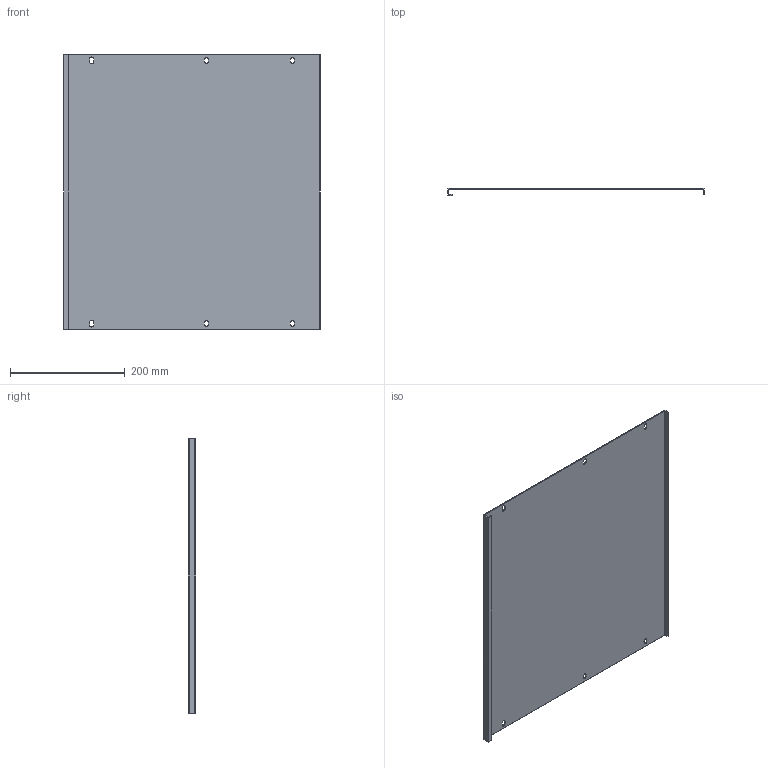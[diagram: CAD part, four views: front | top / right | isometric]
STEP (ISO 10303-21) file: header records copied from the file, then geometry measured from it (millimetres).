
FILE_DESCRIPTION (( 'STEP AP214' ), '1' );
FILE_NAME ('FO-00-PVS-045-060 Ïëàñòðîí ãëóõîé âíóòðåííèé 450õ600.STEP', '2025-08-26T08:52:43', ( '' ), ( '' ), 'SwSTEP 2.0', 'SolidWorks 2023', '' );
FILE_SCHEMA (( 'AUTOMOTIVE_DESIGN' ));
Length unit declared in the file: millimetre
Products named in the file (1): FO-00-PVS-045-060 Пластрон глухой внутренний 450х600
Bounding box: 448 x 12.5 x 479 mm (x, y, z)
Volume: 339991.6 mm3; surface area: 456445.1 mm2
Topology: 1 solids, 1 shells, 52 faces, 150 edges, 100 vertices
Faces by surface type: plane 34, cylinder 18
Entity records: 1757 total; most frequent: CARTESIAN_POINT 303, ORIENTED_EDGE 300, DIRECTION 292, EDGE_CURVE 150, LINE 114, VECTOR 114, VERTEX_POINT 100, AXIS2_PLACEMENT_3D 89
